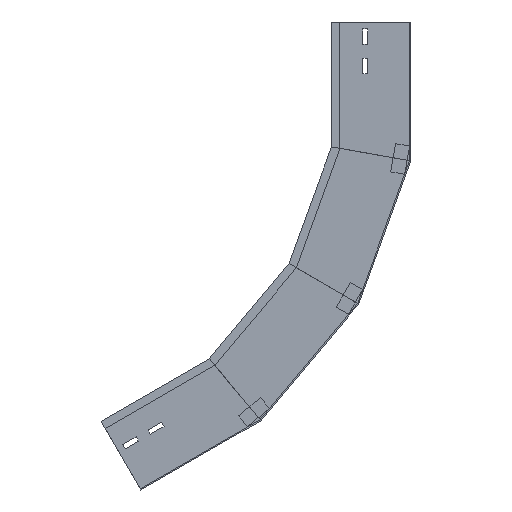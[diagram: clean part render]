
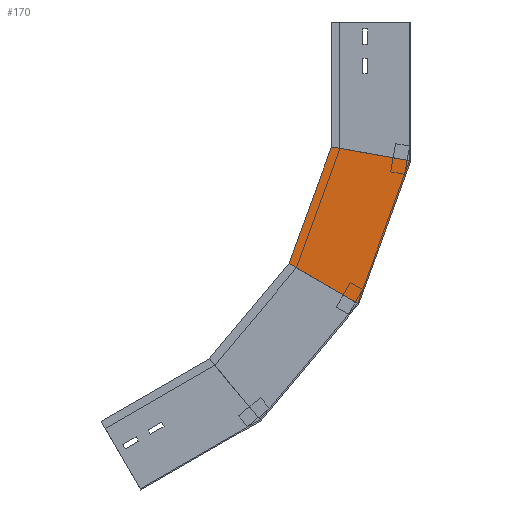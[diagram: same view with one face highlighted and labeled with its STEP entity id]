
A CAD part, left-side view. The second image highlights one B-rep face of the part: STEP entity #170.
In plain terms, the highlighted planar face has unit normal (-1, 0, 0) as drawn and (1, 0, 0) by its records, which use the part's own axes.
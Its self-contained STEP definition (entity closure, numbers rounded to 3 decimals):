
#33 = VERTEX_POINT ( 'NONE', #1575 ) ;
#88 = VECTOR ( 'NONE', #1189, 1000. ) ;
#147 = LINE ( 'NONE', #813, #88 ) ;
#170 = ADVANCED_FACE ( 'NONE', ( #619 ), #1642, .F. ) ;
#199 = LINE ( 'NONE', #1653, #514 ) ;
#322 = VERTEX_POINT ( 'NONE', #1683 ) ;
#329 = DIRECTION ( 'NONE',  ( 0., 0.643, -0.766 ) ) ;
#378 = EDGE_CURVE ( 'NONE', #33, #322, #199, .T. ) ;
#514 = VECTOR ( 'NONE', #731, 1000. ) ;
#599 = CARTESIAN_POINT ( 'NONE',  ( 0., 285.655, -476.677 ) ) ;
#608 = LINE ( 'NONE', #723, #802 ) ;
#619 = FACE_OUTER_BOUND ( 'NONE', #1634, .T. ) ;
#628 = VERTEX_POINT ( 'NONE', #599 ) ;
#723 = CARTESIAN_POINT ( 'NONE',  ( 0., 73.705, -399.104 ) ) ;
#731 = DIRECTION ( 'NONE',  ( 0., -0.866, -0.5 ) ) ;
#739 = LINE ( 'NONE', #1662, #1627 ) ;
#802 = VECTOR ( 'NONE', #329, 1000. ) ;
#813 = CARTESIAN_POINT ( 'NONE',  ( 0., 159.885, -326.79 ) ) ;
#903 = VERTEX_POINT ( 'NONE', #1491 ) ;
#993 = CARTESIAN_POINT ( 'NONE',  ( 0., 73.705, -399.104 ) ) ;
#1032 = ORIENTED_EDGE ( 'NONE', *, *, #1592, .T. ) ;
#1162 = ORIENTED_EDGE ( 'NONE', *, *, #378, .T. ) ;
#1189 = DIRECTION ( 'NONE',  ( 0., 0.643, -0.766 ) ) ;
#1199 = ORIENTED_EDGE ( 'NONE', *, *, #1561, .F. ) ;
#1241 = DIRECTION ( 'NONE',  ( 0., -0.643, -0.766 ) ) ;
#1246 = DIRECTION ( 'NONE',  ( -1., 0., 0. ) ) ;
#1274 = ORIENTED_EDGE ( 'NONE', *, *, #1581, .F. ) ;
#1491 = CARTESIAN_POINT ( 'NONE',  ( 0., 212.226, -564.186 ) ) ;
#1561 = EDGE_CURVE ( 'NONE', #33, #628, #147, .T. ) ;
#1575 = CARTESIAN_POINT ( 'NONE',  ( 0., 172.636, -341.986 ) ) ;
#1581 = EDGE_CURVE ( 'NONE', #628, #903, #739, .T. ) ;
#1592 = EDGE_CURVE ( 'NONE', #322, #903, #608, .T. ) ;
#1627 = VECTOR ( 'NONE', #1241, 1000. ) ;
#1634 = EDGE_LOOP ( 'NONE', ( #1199, #1162, #1032, #1274 ) ) ;
#1642 = PLANE ( 'NONE',  #1650 ) ;
#1650 = AXIS2_PLACEMENT_3D ( 'NONE', #993, #1246, #1658 ) ;
#1653 = CARTESIAN_POINT ( 'NONE',  ( 0., 106.113, -380.393 ) ) ;
#1658 = DIRECTION ( 'NONE',  ( 0., 0., 1. ) ) ;
#1662 = CARTESIAN_POINT ( 'NONE',  ( 0., 236.28, -535.52 ) ) ;
#1683 = CARTESIAN_POINT ( 'NONE',  ( 0., 73.705, -399.104 ) ) ;
